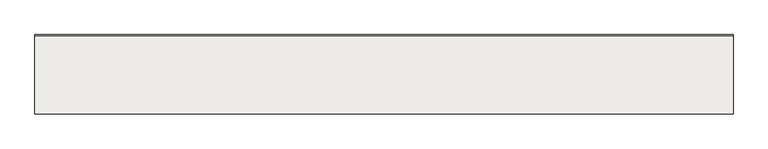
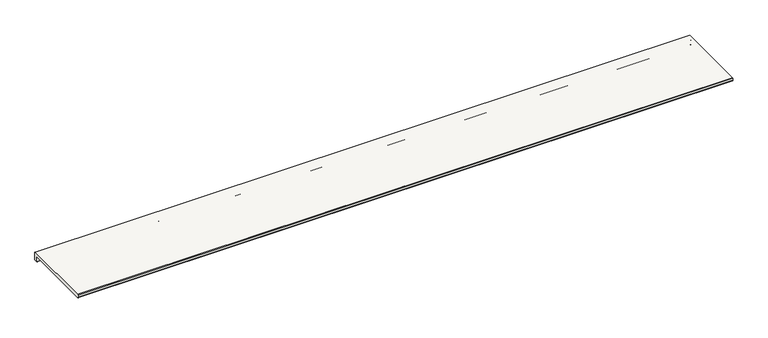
"""IFC4 building model written with IfcOpenShell, lengths in millimetres: slab geometry, ROSA GRES_L62 : Pieza L62_Tresor_Java_Anti-Slip."""

import ifcopenshell
import ifcopenshell.guid

model = None  # the IFC model being written
_history = None  # IfcOwnerHistory: only IFC2X3 demands one
_inside = {}  # id of a spatial element -> (the spatial element, [elements in it])
_under = {}  # id of a project, library or spatial element -> (it, [spatial elements below it])
_declared = {}  # id of a project -> (the project, [libraries it declares])
_typed = {}  # id of a type object -> (the type object, [elements of that type])
_made_of = {}  # id of a material, layer set ... -> (it, [elements and type objects made of it])


def new_model(schema):
    """Start an empty IFC model of exactly this schema.

    Asked for "IFC4X3", IfcOpenShell would pick the latest addendum, in which some entities
    have other attributes; the version numbers below select the first issue.
    IFC2X3 requires an IfcOwnerHistory on every rooted entity: one is made here for all.
    """
    global model, _history
    if schema == "IFC4X3":
        model = ifcopenshell.file(schema_version=(4, 3, 0, 0))
    else:
        model = ifcopenshell.file(schema=schema)
    _inside.clear()
    _under.clear()
    _declared.clear()
    _typed.clear()
    _made_of.clear()
    _history = None
    if model.schema == "IFC2X3":
        org = make("IfcOrganization", Name="unknown")
        user = make(
            "IfcPersonAndOrganization",
            ThePerson=make("IfcPerson", FamilyName="unknown"),
            TheOrganization=org,
        )
        app = make(
            "IfcApplication",
            ApplicationDeveloper=org,
            Version="unknown",
            ApplicationFullName="unknown",
            ApplicationIdentifier="unknown",
        )
        _history = make(
            "IfcOwnerHistory",
            OwningUser=user,
            OwningApplication=app,
            ChangeAction="ADDED",
            CreationDate=0,
        )
    return model


def make(cls, **values):
    """One entity of the class cls with the attributes given. An attribute that is None is left unset."""
    return model.create_entity(
        cls, **{name: value for name, value in values.items() if value is not None}
    )


def rooted(cls, **values):
    """An entity with a GlobalId (a new one), such as an element, a storey or a relation."""
    return make(cls, GlobalId=ifcopenshell.guid.new(), OwnerHistory=_history, **values)


def si_unit(unit_type, name, prefix=None):
    """IfcSIUnit, for example si_unit("LENGTHUNIT", "METRE", prefix="MILLI")."""
    return make("IfcSIUnit", UnitType=unit_type, Prefix=prefix, Name=name)


def assignment(units):
    """IfcUnitAssignment: the units of a project."""
    return None if units is None else make("IfcUnitAssignment", Units=units)


def point(xyz):
    """IfcCartesianPoint."""
    return None if xyz is None else make("IfcCartesianPoint", Coordinates=xyz)


def direction(xyz):
    """IfcDirection."""
    return None if xyz is None else make("IfcDirection", DirectionRatios=xyz)


def frame(location, z_axis=None, x_axis=None):
    """IfcAxis2Placement3D, a coordinate frame: its origin and axes. An axis left out is left unset."""
    return make(
        "IfcAxis2Placement3D",
        Location=point(location),
        Axis=direction(z_axis),
        RefDirection=direction(x_axis),
    )


def frame_2d(location, x_axis=None):
    """IfcAxis2Placement2D, a coordinate frame in the plane: its origin and x axis."""
    return make(
        "IfcAxis2Placement2D", Location=point(location), RefDirection=direction(x_axis)
    )


def origin():
    """The frame at (0, 0, 0) with its axes left unset."""
    return frame((0.0, 0.0, 0.0))


def place(relative_to, where):
    """IfcLocalPlacement: puts the frame where relative to a parent placement (None: the world)."""
    return make(
        "IfcLocalPlacement", PlacementRelTo=relative_to, RelativePlacement=where
    )


def context(
    kind, dimensions, precision=None, world=None, true_north=None, identifier=None
):
    """IfcGeometricRepresentationContext, for example the 3D "Model" context."""
    return make(
        "IfcGeometricRepresentationContext",
        ContextIdentifier=identifier,
        ContextType=kind,
        CoordinateSpaceDimension=dimensions,
        Precision=precision,
        WorldCoordinateSystem=world,
        TrueNorth=true_north,
    )


def project(units=None, contexts=None):
    """IfcProject with its units and contexts."""
    return rooted(
        "IfcProject",
        Name="project",
        RepresentationContexts=contexts,
        UnitsInContext=assignment(units),
    )


def spatial(cls, under=None, at=None, **own):
    """A site, building, storey or space (cls), placed at a placement, below another one or the project."""
    s = rooted(cls, ObjectPlacement=at, **own)
    if under is not None:
        _under.setdefault(under.id(), (under, []))[1].append(s)
    return s


def polyline(points):
    """IfcPolyline through the points."""
    return make("IfcPolyline", Points=[point(p) for p in points])


def circle_curve(where, radius):
    """IfcCircle in the frame where."""
    return make("IfcCircle", Position=where, Radius=radius)


def trimmed(basis, trim1, trim2, sense, master):
    """IfcTrimmedCurve: the piece of a basis curve between two trims."""
    return make(
        "IfcTrimmedCurve",
        BasisCurve=basis,
        Trim1=trim1,
        Trim2=trim2,
        SenseAgreement=sense,
        MasterRepresentation=master,
    )


def segment(curve, same_sense, transition):
    """IfcCompositeCurveSegment."""
    return make(
        "IfcCompositeCurveSegment",
        Transition=transition,
        SameSense=same_sense,
        ParentCurve=curve,
    )


def composite_curve(segments, self_intersect=None):
    """IfcCompositeCurve: segments joined end to end."""
    return make("IfcCompositeCurve", Segments=segments, SelfIntersect=self_intersect)


def outline(outer, holes=None, kind="AREA"):
    """IfcArbitraryClosedProfileDef: a profile drawn as a closed curve; with holes, ...WithVoids."""
    if holes is None:
        return make("IfcArbitraryClosedProfileDef", ProfileType=kind, OuterCurve=outer)
    return make(
        "IfcArbitraryProfileDefWithVoids",
        ProfileType=kind,
        OuterCurve=outer,
        InnerCurves=holes,
    )


def extrude(swept, where, along, depth):
    """IfcExtrudedAreaSolid: the profile swept, set in the frame where, extruded along a direction by depth."""
    return make(
        "IfcExtrudedAreaSolid",
        SweptArea=swept,
        Position=where,
        ExtrudedDirection=direction(along),
        Depth=depth,
    )


def shape(context_of_items, identifier, shape_type, items):
    """IfcShapeRepresentation: the items that make up one representation, for example the "Body"."""
    return make(
        "IfcShapeRepresentation",
        ContextOfItems=context_of_items,
        RepresentationIdentifier=identifier,
        RepresentationType=shape_type,
        Items=items,
    )


def source(mapping_origin, context_of_items, identifier, shape_type, items):
    """IfcRepresentationMap: a shape defined once, which mapped items show again and again."""
    return make(
        "IfcRepresentationMap",
        MappingOrigin=mapping_origin,
        MappedRepresentation=shape(context_of_items, identifier, shape_type, items),
    )


def transform(
    local_origin,
    x_axis=None,
    y_axis=None,
    z_axis=None,
    scale=None,
    scale2=None,
    scale3=None,
    uniform=True,
):
    """IfcCartesianTransformationOperator3D, or its non-uniform kind. x_axis, y_axis, z_axis: its Axis1, 2, 3."""
    if uniform:
        return make(
            "IfcCartesianTransformationOperator3D",
            Axis1=direction(x_axis),
            Axis2=direction(y_axis),
            LocalOrigin=point(local_origin),
            Scale=scale,
            Axis3=direction(z_axis),
        )
    return make(
        "IfcCartesianTransformationOperator3DnonUniform",
        Axis1=direction(x_axis),
        Axis2=direction(y_axis),
        LocalOrigin=point(local_origin),
        Scale=scale,
        Axis3=direction(z_axis),
        Scale2=scale2,
        Scale3=scale3,
    )


def mapped(mapping_source, mapping_target):
    """IfcMappedItem: shows the shape of a source again, moved by a transform."""
    return make(
        "IfcMappedItem", MappingSource=mapping_source, MappingTarget=mapping_target
    )


def made_of(thing, what):
    """Note that an element or type object is made of a material, layer set ...; save() writes the relation."""
    if what is not None:
        _made_of.setdefault(what.id(), (what, []))[1].append(thing)
    return thing


def element(
    cls,
    number,
    at=None,
    inside=None,
    cuts=None,
    type_object=None,
    material=None,
    context=None,
    identifier="Body",
    shape_type=None,
    held_by="IfcProductDefinitionShape",
    body=None,
    shapes=None,
    **own,
):
    """One element of the class cls, such as IfcWall. Its Tag is "e" and its number.

    at: its placement. inside: the storey or other place that contains it. cuts: it is an
    opening in that element (IfcRelVoidsElement). A single representation is given by context,
    identifier, shape_type and body (its items); several are given by shapes. held_by: the class
    of the entity that holds the representations. save() writes the other relations.
    """
    e = rooted(cls, Tag="e%d" % number, ObjectPlacement=at, **own)
    if body is not None:
        shapes = [shape(context, identifier, shape_type, body)]
    if shapes is not None:
        e.Representation = make(held_by, Representations=shapes)
    if inside is not None:
        _inside.setdefault(inside.id(), (inside, []))[1].append(e)
    if cuts is not None:
        rooted(
            "IfcRelVoidsElement", RelatingBuildingElement=cuts, RelatedOpeningElement=e
        )
    if type_object is not None:
        _typed.setdefault(type_object.id(), (type_object, []))[1].append(e)
    return made_of(e, material)


def aggregate(whole, parts):
    """IfcRelAggregates: a whole, such as a stair, and the parts it consists of."""
    return rooted("IfcRelAggregates", RelatingObject=whole, RelatedObjects=parts)


def save(model, path):
    """Write the relations noted so far, then the file.

    IfcRelAggregates (storeys below a building ...), IfcRelContainedInSpatialStructure (elements
    in a storey), IfcRelDefinesByType, IfcRelAssociatesMaterial and IfcRelDeclares: one each for
    every whole, place, type object, material and project.
    """
    for whole, parts in _under.values():
        aggregate(whole, parts)
    for where, things in _inside.values():
        rooted(
            "IfcRelContainedInSpatialStructure",
            RelatedElements=things,
            RelatingStructure=where,
        )
    for kind, things in _typed.values():
        rooted("IfcRelDefinesByType", RelatedObjects=things, RelatingType=kind)
    for what, things in _made_of.values():
        rooted("IfcRelAssociatesMaterial", RelatedObjects=things, RelatingMaterial=what)
    for by, libraries in _declared.values():
        rooted("IfcRelDeclares", RelatingContext=by, RelatedDefinitions=libraries)
    model.write(path)


def slab_b84ba919(model_context):
    return source(origin(), model_context, "Body", "SweptSolid", [
        extrude(outline(composite_curve([segment(trimmed(circle_curve(frame_2d((-12.1001991, -35.1001991)), 1.8998009), [point((-12.1001991, -37.0))], [point((-14.0, -35.1001991))], False, "CARTESIAN"), True, "CONTINUOUS"), segment(polyline([(-14.0, -35.1001991), (-14.0, -16.5836242)]), True, "CONTINUOUS"), segment(trimmed(circle_curve(frame_2d((-16.6422322, -16.5836242)), 2.6422322), [point((-14.0, -16.5836242))], [point((-16.6422322, -13.9413919))], True, "CARTESIAN"), True, "CONTINUOUS"), segment(polyline([(-16.6422322, -13.9413919), (-315.5234432, -13.9413919)]), True, "CONTINUOUS"), segment(trimmed(circle_curve(frame_2d((-315.5234432, -12.4648352)), 1.4765568), [point((-315.5234432, -13.9413919))], [point((-317.0, -12.4648352))], False, "CARTESIAN"), True, "CONTINUOUS"), segment(polyline([(-317.0, -12.4648352), (-317.0, -2.5), (-315.5, 0.0), (-2.5, 0.0), (0.0, -2.5), (0.0, -34.5)]), True, "CONTINUOUS"), segment(trimmed(circle_curve(frame_2d((-2.5, -34.5)), 2.5), [point((0.0, -34.5))], [point((-2.5, -37.0))], False, "CARTESIAN"), True, "CONTINUOUS"), segment(polyline([(-2.5, -37.0), (-5.422949, -37.0)]), True, "CONTINUOUS"), segment(trimmed(circle_curve(frame_2d((-7.4142134, -37.0)), 1.9912643), [point((-5.422949, -37.0))], [point((-9.4054777, -37.0))], True, "CARTESIAN"), True, "CONTINUOUS"), segment(polyline([(-9.4054777, -37.0), (-12.1001991, -37.0)]), True, "CONTINUOUS")], self_intersect=False)), frame((0.0, 0.0, 0.0), z_axis=(1.0, 0.0, 0.0), x_axis=(0.0, 1.0, 0.0)), (0.0, 0.0, 1.0), 2782.0),
    ])


if __name__ == "__main__":
    model = new_model("IFC4")
    model_context = context("Model", 3, world=origin())
    ifc_project = project(units=[si_unit("LENGTHUNIT", "METRE", prefix="MILLI")], contexts=[model_context])
    site = spatial("IfcSite", under=ifc_project)
    building = spatial("IfcBuilding", under=site)
    placement = place(None, origin())
    slab_shape = slab_b84ba919(model_context)
    element("IfcSlab", 1, ObjectType="ROSA GRES_L62 : Pieza L62_Tresor_Java_Anti-Slip", at=placement, inside=building, context=model_context, shape_type="MappedRepresentation", body=[
        mapped(slab_shape, transform((0.0, 0.0, 0.0), x_axis=(1.0, 0.0, 0.0), y_axis=(0.0, 1.0, 0.0), z_axis=(0.0, 0.0, 1.0))),
    ])
    save(model, "model.ifc")
